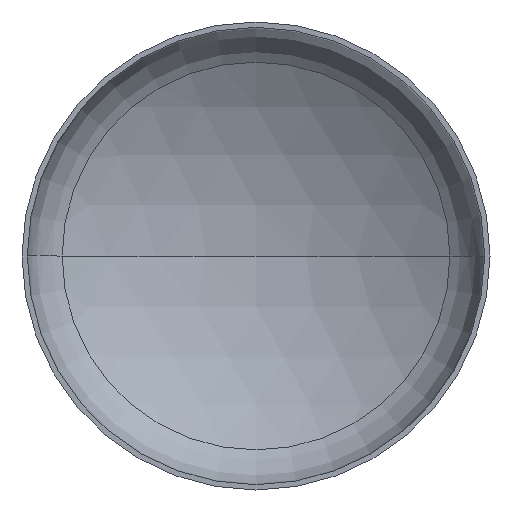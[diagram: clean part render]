
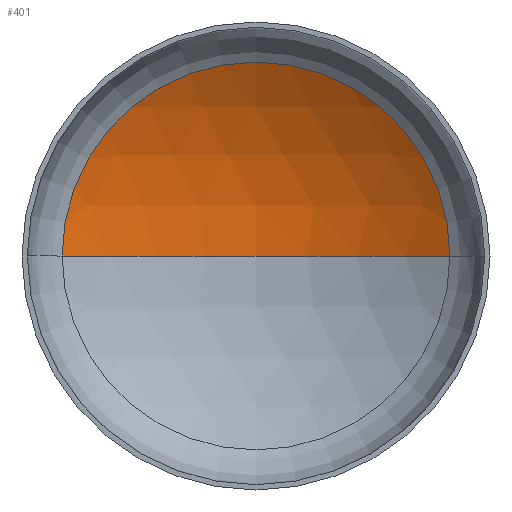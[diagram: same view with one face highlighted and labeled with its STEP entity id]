
A CAD part, front view. The second image highlights one B-rep face of the part: STEP entity #401.
In plain terms, the highlighted spherical face has radius 6000 mm.
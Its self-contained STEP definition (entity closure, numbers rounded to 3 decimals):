
#40 = ORIENTED_EDGE ( 'NONE', *, *, #127, .T. ) ;
#47 = ORIENTED_EDGE ( 'NONE', *, *, #131, .T. ) ;
#52 = VERTEX_POINT ( 'NONE', #253 ) ;
#76 = VERTEX_POINT ( 'NONE', #226 ) ;
#87 = AXIS2_PLACEMENT_3D ( 'NONE', #221, #207, #205 ) ;
#89 = AXIS2_PLACEMENT_3D ( 'NONE', #300, #298, #296 ) ;
#92 = ORIENTED_EDGE ( 'NONE', *, *, #132, .F. ) ;
#93 = AXIS2_PLACEMENT_3D ( 'NONE', #292, #290, #390 ) ;
#97 = EDGE_LOOP ( 'NONE', ( #92, #47, #40 ) ) ;
#102 = VERTEX_POINT ( 'NONE', #349 ) ;
#127 = EDGE_CURVE ( 'NONE', #76, #52, #149, .T. ) ;
#131 = EDGE_CURVE ( 'NONE', #102, #76, #212, .T. ) ;
#132 = EDGE_CURVE ( 'NONE', #102, #52, #335, .T. ) ;
#149 = CIRCLE ( 'NONE', #93, 3107.121 ) ;
#205 = DIRECTION ( 'NONE',  ( 1., 0., 0. ) ) ;
#207 = DIRECTION ( 'NONE',  ( 0., 0., 1. ) ) ;
#212 = CIRCLE ( 'NONE', #89, 6000. ) ;
#214 = DIRECTION ( 'NONE',  ( 0., 0., -1. ) ) ;
#215 = FACE_OUTER_BOUND ( 'NONE', #97, .T. ) ;
#221 = CARTESIAN_POINT ( 'NONE',  ( 0., -4044.749, 0. ) ) ;
#226 = CARTESIAN_POINT ( 'NONE',  ( 3107.121, 1088.067, 0. ) ) ;
#253 = CARTESIAN_POINT ( 'NONE',  ( -3107.121, 1088.067, 0. ) ) ;
#277 = SPHERICAL_SURFACE ( 'NONE', #305, 6000. ) ;
#290 = DIRECTION ( 'NONE',  ( 0., -1., 0. ) ) ;
#292 = CARTESIAN_POINT ( 'NONE',  ( 0., 1088.067, 0. ) ) ;
#296 = DIRECTION ( 'NONE',  ( -1., 0., 0. ) ) ;
#298 = DIRECTION ( 'NONE',  ( 0., 0., -1. ) ) ;
#300 = CARTESIAN_POINT ( 'NONE',  ( 0., -4044.749, 0. ) ) ;
#305 = AXIS2_PLACEMENT_3D ( 'NONE', #399, #214, #336 ) ;
#335 = CIRCLE ( 'NONE', #87, 6000. ) ;
#336 = DIRECTION ( 'NONE',  ( -1., 0., 0. ) ) ;
#349 = CARTESIAN_POINT ( 'NONE',  ( 0., 1955.251, 0. ) ) ;
#390 = DIRECTION ( 'NONE',  ( 1., 0., 0. ) ) ;
#399 = CARTESIAN_POINT ( 'NONE',  ( 0., -4044.749, 0. ) ) ;
#401 = ADVANCED_FACE ( 'NONE', ( #215 ), #277, .F. ) ;
